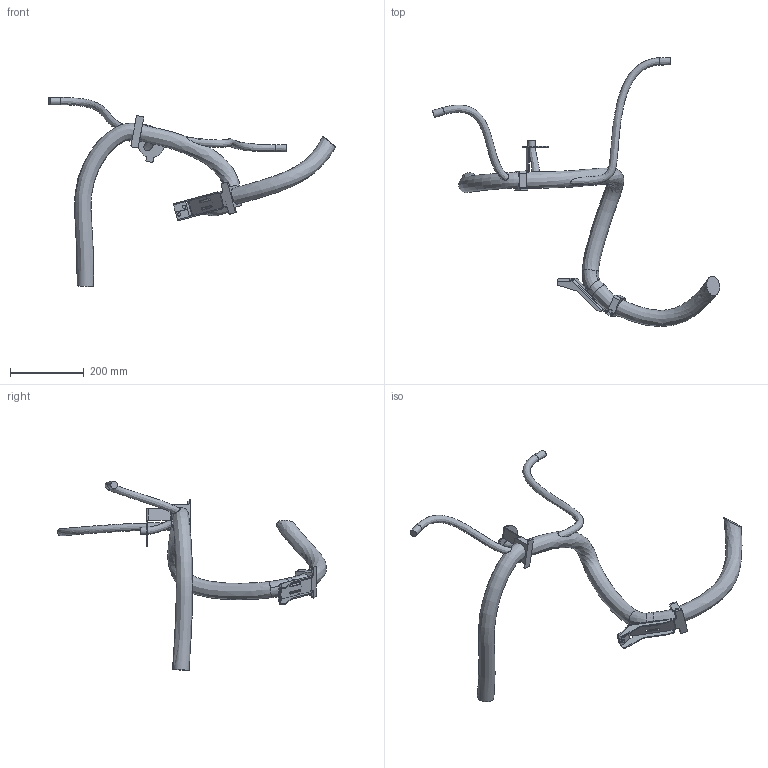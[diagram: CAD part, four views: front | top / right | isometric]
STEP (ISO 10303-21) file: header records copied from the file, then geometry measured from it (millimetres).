
FILE_DESCRIPTION (( 'STEP AP214' ), '1' );
FILE_NAME ('IRB6750S-ALL-OC_00_LINK01m_CABLE.step', '2026-05-13T05:20:30', ( '' ), ( '' ), 'SwSTEP 2.0', 'SolidWorks 2024', '' );
FILE_SCHEMA (( 'AUTOMOTIVE_DESIGN' ));
Length unit declared in the file: millimetre
Products named in the file (1): IRB6750S-ALL-OC_00_LINK01m_CABLE
Bounding box: 781.13 x 731.64 x 514.25 mm (x, y, z)
Volume: 2883126.8 mm3; surface area: 333270.6 mm2
Topology: 1 solids, 1 shells, 210 faces, 542 edges, 345 vertices
Faces by surface type: plane 129, cylinder 68, bspline 13
Full cylindrical faces by diameter (mm): 8 x4, 9 x4, 20 x2
Entity records: 12926 total; most frequent: CARTESIAN_POINT 5576, ORIENTED_EDGE 1028, DIRECTION 1027, EDGE_CURVE 514, LINE 347, VECTOR 347, AXIS2_PLACEMENT_3D 340, VERTEX_POINT 336
